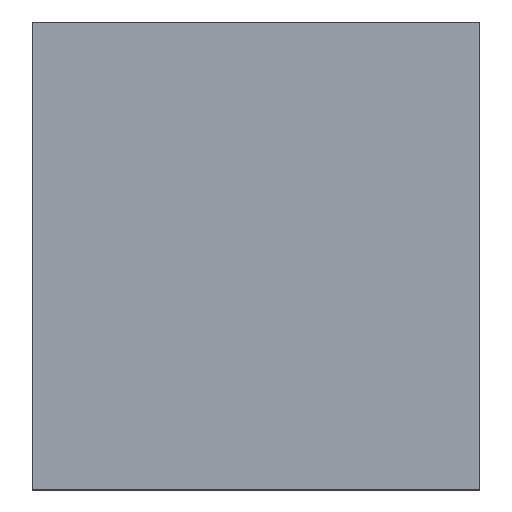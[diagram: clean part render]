
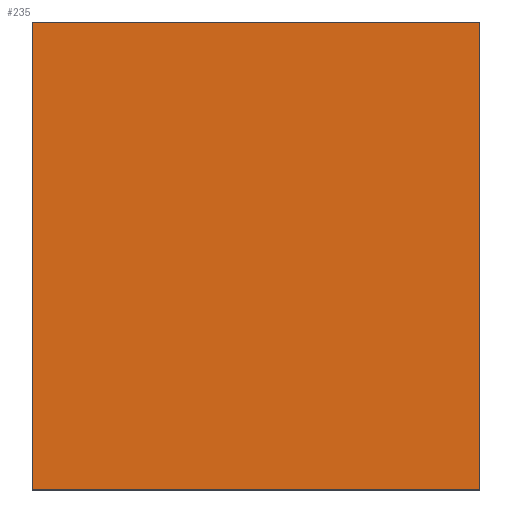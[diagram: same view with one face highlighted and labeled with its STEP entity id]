
A CAD part, top view. The second image highlights one B-rep face of the part: STEP entity #235.
In plain terms, the highlighted planar face has unit normal (0, 0, 1).
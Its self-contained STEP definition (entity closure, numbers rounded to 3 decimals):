
#46 = VERTEX_POINT('',#47);
#47 = CARTESIAN_POINT('',(5.,3.,240.5));
#54 = PLANE('',#55);
#55 = AXIS2_PLACEMENT_3D('',#56,#57,#58);
#56 = CARTESIAN_POINT('',(5.,3.,197.5));
#57 = DIRECTION('',(1.,0.,-0.));
#58 = DIRECTION('',(0.,0.,1.));
#66 = PLANE('',#67);
#67 = AXIS2_PLACEMENT_3D('',#68,#69,#70);
#68 = CARTESIAN_POINT('',(5.,3.,197.5));
#69 = DIRECTION('',(-0.,1.,0.));
#70 = DIRECTION('',(0.,0.,1.));
#107 = VERTEX_POINT('',#108);
#108 = CARTESIAN_POINT('',(5.,97.,240.5));
#122 = PLANE('',#123);
#123 = AXIS2_PLACEMENT_3D('',#124,#125,#126);
#124 = CARTESIAN_POINT('',(5.,97.,197.5));
#125 = DIRECTION('',(-0.,1.,0.));
#126 = DIRECTION('',(0.,0.,1.));
#134 = EDGE_CURVE('',#46,#107,#135,.T.);
#135 = SURFACE_CURVE('',#136,(#140,#147),.PCURVE_S1.);
#136 = LINE('',#137,#138);
#137 = CARTESIAN_POINT('',(5.,3.,240.5));
#138 = VECTOR('',#139,1.);
#139 = DIRECTION('',(-0.,1.,0.));
#140 = PCURVE('',#54,#141);
#141 = DEFINITIONAL_REPRESENTATION('',(#142),#146);
#142 = LINE('',#143,#144);
#143 = CARTESIAN_POINT('',(43.,0.));
#144 = VECTOR('',#145,1.);
#145 = DIRECTION('',(0.,-1.));
#146 = ( GEOMETRIC_REPRESENTATION_CONTEXT(2) 
PARAMETRIC_REPRESENTATION_CONTEXT() REPRESENTATION_CONTEXT('2D SPACE',''
  ) );
#147 = PCURVE('',#148,#153);
#148 = PLANE('',#149);
#149 = AXIS2_PLACEMENT_3D('',#150,#151,#152);
#150 = CARTESIAN_POINT('',(5.,3.,240.5));
#151 = DIRECTION('',(0.,0.,1.));
#152 = DIRECTION('',(1.,0.,-0.));
#153 = DEFINITIONAL_REPRESENTATION('',(#154),#158);
#154 = LINE('',#155,#156);
#155 = CARTESIAN_POINT('',(0.,0.));
#156 = VECTOR('',#157,1.);
#157 = DIRECTION('',(0.,1.));
#158 = ( GEOMETRIC_REPRESENTATION_CONTEXT(2) 
PARAMETRIC_REPRESENTATION_CONTEXT() REPRESENTATION_CONTEXT('2D SPACE',''
  ) );
#187 = EDGE_CURVE('',#46,#188,#190,.T.);
#188 = VERTEX_POINT('',#189);
#189 = CARTESIAN_POINT('',(95.,3.,240.5));
#190 = SURFACE_CURVE('',#191,(#195,#202),.PCURVE_S1.);
#191 = LINE('',#192,#193);
#192 = CARTESIAN_POINT('',(5.,3.,240.5));
#193 = VECTOR('',#194,1.);
#194 = DIRECTION('',(1.,0.,-0.));
#195 = PCURVE('',#66,#196);
#196 = DEFINITIONAL_REPRESENTATION('',(#197),#201);
#197 = LINE('',#198,#199);
#198 = CARTESIAN_POINT('',(43.,0.));
#199 = VECTOR('',#200,1.);
#200 = DIRECTION('',(0.,1.));
#201 = ( GEOMETRIC_REPRESENTATION_CONTEXT(2) 
PARAMETRIC_REPRESENTATION_CONTEXT() REPRESENTATION_CONTEXT('2D SPACE',''
  ) );
#202 = PCURVE('',#148,#203);
#203 = DEFINITIONAL_REPRESENTATION('',(#204),#208);
#204 = LINE('',#205,#206);
#205 = CARTESIAN_POINT('',(0.,0.));
#206 = VECTOR('',#207,1.);
#207 = DIRECTION('',(1.,0.));
#208 = ( GEOMETRIC_REPRESENTATION_CONTEXT(2) 
PARAMETRIC_REPRESENTATION_CONTEXT() REPRESENTATION_CONTEXT('2D SPACE',''
  ) );
#224 = PLANE('',#225);
#225 = AXIS2_PLACEMENT_3D('',#226,#227,#228);
#226 = CARTESIAN_POINT('',(95.,3.,197.5));
#227 = DIRECTION('',(1.,0.,-0.));
#228 = DIRECTION('',(0.,0.,1.));
#235 = ADVANCED_FACE('',(#236),#148,.T.);
#236 = FACE_BOUND('',#237,.T.);
#237 = EDGE_LOOP('',(#238,#239,#240,#263));
#238 = ORIENTED_EDGE('',*,*,#134,.F.);
#239 = ORIENTED_EDGE('',*,*,#187,.T.);
#240 = ORIENTED_EDGE('',*,*,#241,.T.);
#241 = EDGE_CURVE('',#188,#242,#244,.T.);
#242 = VERTEX_POINT('',#243);
#243 = CARTESIAN_POINT('',(95.,97.,240.5));
#244 = SURFACE_CURVE('',#245,(#249,#256),.PCURVE_S1.);
#245 = LINE('',#246,#247);
#246 = CARTESIAN_POINT('',(95.,3.,240.5));
#247 = VECTOR('',#248,1.);
#248 = DIRECTION('',(-0.,1.,0.));
#249 = PCURVE('',#148,#250);
#250 = DEFINITIONAL_REPRESENTATION('',(#251),#255);
#251 = LINE('',#252,#253);
#252 = CARTESIAN_POINT('',(90.,0.));
#253 = VECTOR('',#254,1.);
#254 = DIRECTION('',(0.,1.));
#255 = ( GEOMETRIC_REPRESENTATION_CONTEXT(2) 
PARAMETRIC_REPRESENTATION_CONTEXT() REPRESENTATION_CONTEXT('2D SPACE',''
  ) );
#256 = PCURVE('',#224,#257);
#257 = DEFINITIONAL_REPRESENTATION('',(#258),#262);
#258 = LINE('',#259,#260);
#259 = CARTESIAN_POINT('',(43.,0.));
#260 = VECTOR('',#261,1.);
#261 = DIRECTION('',(0.,-1.));
#262 = ( GEOMETRIC_REPRESENTATION_CONTEXT(2) 
PARAMETRIC_REPRESENTATION_CONTEXT() REPRESENTATION_CONTEXT('2D SPACE',''
  ) );
#263 = ORIENTED_EDGE('',*,*,#264,.F.);
#264 = EDGE_CURVE('',#107,#242,#265,.T.);
#265 = SURFACE_CURVE('',#266,(#270,#277),.PCURVE_S1.);
#266 = LINE('',#267,#268);
#267 = CARTESIAN_POINT('',(5.,97.,240.5));
#268 = VECTOR('',#269,1.);
#269 = DIRECTION('',(1.,0.,-0.));
#270 = PCURVE('',#148,#271);
#271 = DEFINITIONAL_REPRESENTATION('',(#272),#276);
#272 = LINE('',#273,#274);
#273 = CARTESIAN_POINT('',(0.,94.));
#274 = VECTOR('',#275,1.);
#275 = DIRECTION('',(1.,0.));
#276 = ( GEOMETRIC_REPRESENTATION_CONTEXT(2) 
PARAMETRIC_REPRESENTATION_CONTEXT() REPRESENTATION_CONTEXT('2D SPACE',''
  ) );
#277 = PCURVE('',#122,#278);
#278 = DEFINITIONAL_REPRESENTATION('',(#279),#283);
#279 = LINE('',#280,#281);
#280 = CARTESIAN_POINT('',(43.,0.));
#281 = VECTOR('',#282,1.);
#282 = DIRECTION('',(0.,1.));
#283 = ( GEOMETRIC_REPRESENTATION_CONTEXT(2) 
PARAMETRIC_REPRESENTATION_CONTEXT() REPRESENTATION_CONTEXT('2D SPACE',''
  ) );
